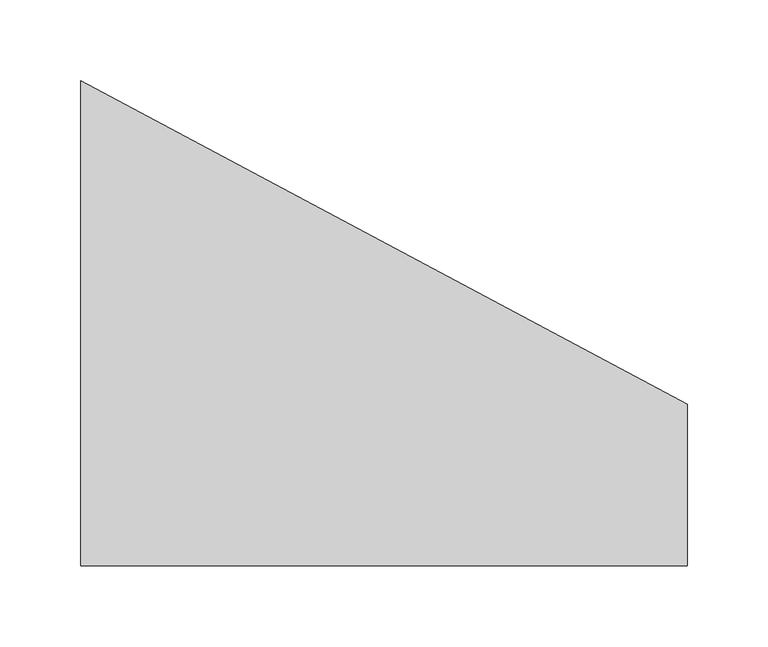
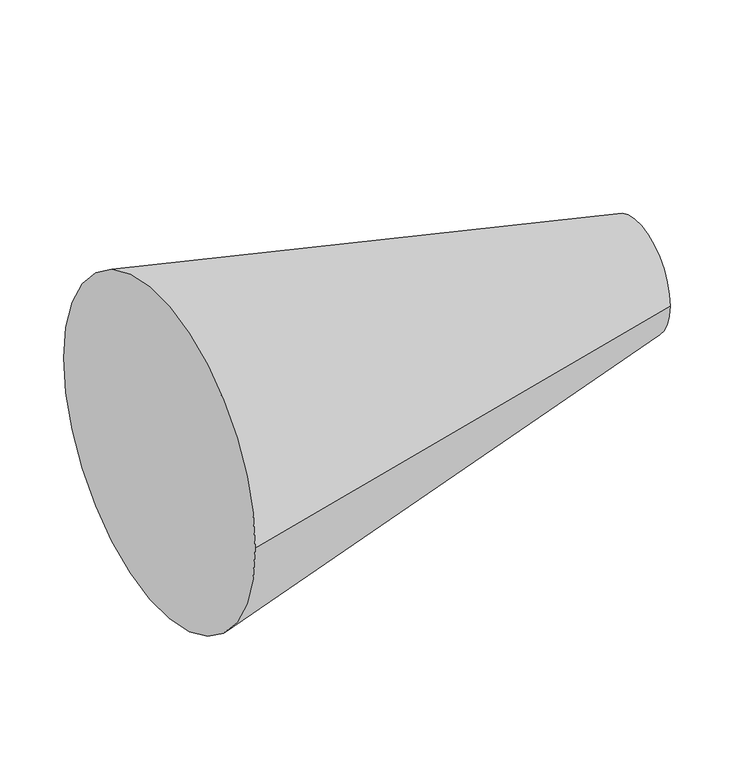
"""IFC4 building model written with IfcOpenShell, lengths in millimetres: duct fitting geometry, BL_ПереходникВоздуховодов_Круглый : Ниппельное соединение."""

import ifcopenshell
import ifcopenshell.guid

model = None  # the IFC model being written
_history = None  # IfcOwnerHistory: only IFC2X3 demands one
_inside = {}  # id of a spatial element -> (the spatial element, [elements in it])
_under = {}  # id of a project, library or spatial element -> (it, [spatial elements below it])
_declared = {}  # id of a project -> (the project, [libraries it declares])
_typed = {}  # id of a type object -> (the type object, [elements of that type])
_made_of = {}  # id of a material, layer set ... -> (it, [elements and type objects made of it])


def new_model(schema):
    """Start an empty IFC model of exactly this schema.

    Asked for "IFC4X3", IfcOpenShell would pick the latest addendum, in which some entities
    have other attributes; the version numbers below select the first issue.
    IFC2X3 requires an IfcOwnerHistory on every rooted entity: one is made here for all.
    """
    global model, _history
    if schema == "IFC4X3":
        model = ifcopenshell.file(schema_version=(4, 3, 0, 0))
    else:
        model = ifcopenshell.file(schema=schema)
    _inside.clear()
    _under.clear()
    _declared.clear()
    _typed.clear()
    _made_of.clear()
    _history = None
    if model.schema == "IFC2X3":
        org = make("IfcOrganization", Name="unknown")
        user = make(
            "IfcPersonAndOrganization",
            ThePerson=make("IfcPerson", FamilyName="unknown"),
            TheOrganization=org,
        )
        app = make(
            "IfcApplication",
            ApplicationDeveloper=org,
            Version="unknown",
            ApplicationFullName="unknown",
            ApplicationIdentifier="unknown",
        )
        _history = make(
            "IfcOwnerHistory",
            OwningUser=user,
            OwningApplication=app,
            ChangeAction="ADDED",
            CreationDate=0,
        )
    return model


def make(cls, **values):
    """One entity of the class cls with the attributes given. An attribute that is None is left unset."""
    return model.create_entity(
        cls, **{name: value for name, value in values.items() if value is not None}
    )


def rooted(cls, **values):
    """An entity with a GlobalId (a new one), such as an element, a storey or a relation."""
    return make(cls, GlobalId=ifcopenshell.guid.new(), OwnerHistory=_history, **values)


def si_unit(unit_type, name, prefix=None):
    """IfcSIUnit, for example si_unit("LENGTHUNIT", "METRE", prefix="MILLI")."""
    return make("IfcSIUnit", UnitType=unit_type, Prefix=prefix, Name=name)


def assignment(units):
    """IfcUnitAssignment: the units of a project."""
    return None if units is None else make("IfcUnitAssignment", Units=units)


def point(xyz):
    """IfcCartesianPoint."""
    return None if xyz is None else make("IfcCartesianPoint", Coordinates=xyz)


def direction(xyz):
    """IfcDirection."""
    return None if xyz is None else make("IfcDirection", DirectionRatios=xyz)


def frame(location, z_axis=None, x_axis=None):
    """IfcAxis2Placement3D, a coordinate frame: its origin and axes. An axis left out is left unset."""
    return make(
        "IfcAxis2Placement3D",
        Location=point(location),
        Axis=direction(z_axis),
        RefDirection=direction(x_axis),
    )


def origin():
    """The frame at (0, 0, 0) with its axes left unset."""
    return frame((0.0, 0.0, 0.0))


def place(relative_to, where):
    """IfcLocalPlacement: puts the frame where relative to a parent placement (None: the world)."""
    return make(
        "IfcLocalPlacement", PlacementRelTo=relative_to, RelativePlacement=where
    )


def context(
    kind, dimensions, precision=None, world=None, true_north=None, identifier=None
):
    """IfcGeometricRepresentationContext, for example the 3D "Model" context."""
    return make(
        "IfcGeometricRepresentationContext",
        ContextIdentifier=identifier,
        ContextType=kind,
        CoordinateSpaceDimension=dimensions,
        Precision=precision,
        WorldCoordinateSystem=world,
        TrueNorth=true_north,
    )


def project(units=None, contexts=None):
    """IfcProject with its units and contexts."""
    return rooted(
        "IfcProject",
        Name="project",
        RepresentationContexts=contexts,
        UnitsInContext=assignment(units),
    )


def spatial(cls, under=None, at=None, **own):
    """A site, building, storey or space (cls), placed at a placement, below another one or the project."""
    s = rooted(cls, ObjectPlacement=at, **own)
    if under is not None:
        _under.setdefault(under.id(), (under, []))[1].append(s)
    return s


def circle_curve(where, radius):
    """IfcCircle in the frame where."""
    return make("IfcCircle", Position=where, Radius=radius)


def shape(context_of_items, identifier, shape_type, items):
    """IfcShapeRepresentation: the items that make up one representation, for example the "Body"."""
    return make(
        "IfcShapeRepresentation",
        ContextOfItems=context_of_items,
        RepresentationIdentifier=identifier,
        RepresentationType=shape_type,
        Items=items,
    )


def source(mapping_origin, context_of_items, identifier, shape_type, items):
    """IfcRepresentationMap: a shape defined once, which mapped items show again and again."""
    return make(
        "IfcRepresentationMap",
        MappingOrigin=mapping_origin,
        MappedRepresentation=shape(context_of_items, identifier, shape_type, items),
    )


def transform(
    local_origin,
    x_axis=None,
    y_axis=None,
    z_axis=None,
    scale=None,
    scale2=None,
    scale3=None,
    uniform=True,
):
    """IfcCartesianTransformationOperator3D, or its non-uniform kind. x_axis, y_axis, z_axis: its Axis1, 2, 3."""
    if uniform:
        return make(
            "IfcCartesianTransformationOperator3D",
            Axis1=direction(x_axis),
            Axis2=direction(y_axis),
            LocalOrigin=point(local_origin),
            Scale=scale,
            Axis3=direction(z_axis),
        )
    return make(
        "IfcCartesianTransformationOperator3DnonUniform",
        Axis1=direction(x_axis),
        Axis2=direction(y_axis),
        LocalOrigin=point(local_origin),
        Scale=scale,
        Axis3=direction(z_axis),
        Scale2=scale2,
        Scale3=scale3,
    )


def mapped(mapping_source, mapping_target):
    """IfcMappedItem: shows the shape of a source again, moved by a transform."""
    return make(
        "IfcMappedItem", MappingSource=mapping_source, MappingTarget=mapping_target
    )


def made_of(thing, what):
    """Note that an element or type object is made of a material, layer set ...; save() writes the relation."""
    if what is not None:
        _made_of.setdefault(what.id(), (what, []))[1].append(thing)
    return thing


def element(
    cls,
    number,
    at=None,
    inside=None,
    cuts=None,
    type_object=None,
    material=None,
    context=None,
    identifier="Body",
    shape_type=None,
    held_by="IfcProductDefinitionShape",
    body=None,
    shapes=None,
    **own,
):
    """One element of the class cls, such as IfcWall. Its Tag is "e" and its number.

    at: its placement. inside: the storey or other place that contains it. cuts: it is an
    opening in that element (IfcRelVoidsElement). A single representation is given by context,
    identifier, shape_type and body (its items); several are given by shapes. held_by: the class
    of the entity that holds the representations. save() writes the other relations.
    """
    e = rooted(cls, Tag="e%d" % number, ObjectPlacement=at, **own)
    if body is not None:
        shapes = [shape(context, identifier, shape_type, body)]
    if shapes is not None:
        e.Representation = make(held_by, Representations=shapes)
    if inside is not None:
        _inside.setdefault(inside.id(), (inside, []))[1].append(e)
    if cuts is not None:
        rooted(
            "IfcRelVoidsElement", RelatingBuildingElement=cuts, RelatedOpeningElement=e
        )
    if type_object is not None:
        _typed.setdefault(type_object.id(), (type_object, []))[1].append(e)
    return made_of(e, material)


def aggregate(whole, parts):
    """IfcRelAggregates: a whole, such as a stair, and the parts it consists of."""
    return rooted("IfcRelAggregates", RelatingObject=whole, RelatedObjects=parts)


def save(model, path):
    """Write the relations noted so far, then the file.

    IfcRelAggregates (storeys below a building ...), IfcRelContainedInSpatialStructure (elements
    in a storey), IfcRelDefinesByType, IfcRelAssociatesMaterial and IfcRelDeclares: one each for
    every whole, place, type object, material and project.
    """
    for whole, parts in _under.values():
        aggregate(whole, parts)
    for where, things in _inside.values():
        rooted(
            "IfcRelContainedInSpatialStructure",
            RelatedElements=things,
            RelatingStructure=where,
        )
    for kind, things in _typed.values():
        rooted("IfcRelDefinesByType", RelatedObjects=things, RelatingType=kind)
    for what, things in _made_of.values():
        rooted("IfcRelAssociatesMaterial", RelatedObjects=things, RelatingMaterial=what)
    for by, libraries in _declared.values():
        rooted("IfcRelDeclares", RelatingContext=by, RelatedDefinitions=libraries)
    model.write(path)


def plane_surface(at):
    """IfcPlane: the flat surface through the origin of the frame at, square to its z axis."""
    return make("IfcPlane", Position=at)


def spline_surface(u_degree, v_degree, points, u_multiplicities, v_multiplicities, u_knots, v_knots, weights=None):
    """IfcBSplineSurfaceWithKnots; with weights, IfcRationalBSplineSurfaceWithKnots. points: one row for each step in u."""
    own = dict(
        UDegree=u_degree,
        VDegree=v_degree,
        ControlPointsList=[[point(p) for p in row] for row in points],
        SurfaceForm="UNSPECIFIED",
        UClosed=False,
        VClosed=False,
        SelfIntersect=False,
        UMultiplicities=u_multiplicities,
        VMultiplicities=v_multiplicities,
        UKnots=u_knots,
        VKnots=v_knots,
        KnotSpec="UNSPECIFIED",
    )
    if weights is None:
        return make("IfcBSplineSurfaceWithKnots", **own)
    return make("IfcRationalBSplineSurfaceWithKnots", WeightsData=weights, **own)


def advanced_brep(points, edges, surfaces, faces):
    """IfcAdvancedBrep: a solid bounded by faces that lie on surfaces and meet in shared edges.

    An edge is (start, end): straight between two places in points (the first is 0);
    or (start, end, curve); or (start, end, curve, False) where it runs against its curve.
    A face is (place in surfaces, loops), or (place, loops, False) where it looks against
    its surface's normal. A loop lists edges by number (the first is 1), with a minus sign
    where the edge is run from its end to its start. The first loop is the outer one.
    """
    corners = [point(p) for p in points]
    vertices = [make("IfcVertexPoint", VertexGeometry=c) for c in corners]
    made = []
    for start, end, *more in edges:
        made.append(
            make(
                "IfcEdgeCurve",
                EdgeStart=vertices[start],
                EdgeEnd=vertices[end],
                EdgeGeometry=more[0] if more else make("IfcPolyline", Points=[corners[start], corners[end]]),
                SameSense=more[1] if len(more) > 1 else True,
            )
        )
    hull = []
    for where, loops, *sense in faces:
        bounds = []
        for j, loop in enumerate(loops):
            ring = [make("IfcOrientedEdge", EdgeElement=made[abs(k) - 1], Orientation=k > 0) for k in loop]
            bounds.append(
                make(
                    "IfcFaceOuterBound" if j == 0 else "IfcFaceBound",
                    Bound=make("IfcEdgeLoop", EdgeList=ring),
                    Orientation=True,
                )
            )
        hull.append(make("IfcAdvancedFace", Bounds=bounds, FaceSurface=surfaces[where], SameSense=sense[0] if sense else True))
    return make("IfcAdvancedBrep", Outer=make("IfcClosedShell", CfsFaces=hull))


def duct_fitting_3902be6a(model_context):
    return source(origin(), model_context, "Body", "AdvancedBrep", [
        advanced_brep(
        [(375.0, -150.0, 100.0), (375.0, -50.0, 100.0), (0.0, -150.0, 0.0), (0.0, 150.0, 0.0)],
        [
            (0, 1, circle_curve(frame((375.0, -100.0, 100.0), z_axis=(1.0, 0.0, 0.0), x_axis=(0.0, 1.0, 0.0)), 50.0)),
            (1, 0, circle_curve(frame((375.0, -100.0, 100.0), z_axis=(1.0, 0.0, 0.0), x_axis=(0.0, 1.0, 0.0)), 50.0)),
            (2, 3, circle_curve(frame((0.0, 0.0, 0.0), z_axis=(-1.0, 0.0, 0.0), x_axis=(0.0, 1.0, 0.0)), 150.0)),
            (3, 2, circle_curve(frame((0.0, 0.0, 0.0), z_axis=(-1.0, 0.0, 0.0), x_axis=(0.0, 1.0, 0.0)), 150.0)),
            (3, 1),
            (0, 2),
        ],
        [
            plane_surface(frame((375.0, -100.0, 100.0), z_axis=(1.0, 0.0, 0.0), x_axis=(0.0, 0.0, -1.0))),
            plane_surface(frame((0.0, 0.0, 0.0), z_axis=(-1.0, 0.0, 0.0), x_axis=(0.0, 0.0, -1.0))),
            spline_surface(2, 1, [[(0.0, -150.0, 0.0), (375.0, -150.0, 100.0)], [(0.0, -150.0, -150.0), (375.0, -150.0, 50.0)], [(0.0, 0.0, -150.0), (375.0, -100.0, 50.0)], [(0.0, 150.0, -150.0), (375.0, -50.0, 50.0)], [(0.0, 150.0, 0.0), (375.0, -50.0, 100.0)]], [3, 2, 3], [2, 2], [0.0, 1.0, 2.0], [0.0, 1.0], weights=[[1.0, 1.0], [0.7071067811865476, 0.7071067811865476], [1.0, 1.0], [0.7071067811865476, 0.7071067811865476], [1.0, 1.0]]),
            spline_surface(2, 1, [[(0.0, 150.0, 0.0), (375.0, -50.0, 100.0)], [(0.0, 150.0, 150.0), (375.0, -50.0, 150.0)], [(0.0, 0.0, 150.0), (375.0, -100.0, 150.0)], [(0.0, -150.0, 150.0), (375.0, -150.0, 150.0)], [(0.0, -150.0, 0.0), (375.0, -150.0, 100.0)]], [3, 2, 3], [2, 2], [0.0, 1.0, 2.0], [0.0, 1.0], weights=[[1.0, 1.0], [0.7071067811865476, 0.7071067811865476], [1.0, 1.0], [0.7071067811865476, 0.7071067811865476], [1.0, 1.0]]),
        ],
        [
            (0, [[1, 2]]),
            (1, [[3, 4]]),
            (2, [[-4, 5, -1, 6]]),
            (3, [[-3, -6, -2, -5]]),
        ],
    ),
    ])


if __name__ == "__main__":
    model = new_model("IFC4")
    model_context = context("Model", 3, world=origin())
    ifc_project = project(units=[si_unit("LENGTHUNIT", "METRE", prefix="MILLI")], contexts=[model_context])
    site = spatial("IfcSite", under=ifc_project)
    building = spatial("IfcBuilding", under=site)
    placement = place(None, origin())
    duct_fitting_shape = duct_fitting_3902be6a(model_context)
    element("IfcDuctFitting", 1, ObjectType="BL_ПереходникВоздуховодов_Круглый : Ниппельное соединение", at=placement, inside=building, context=model_context, shape_type="MappedRepresentation", body=[
        mapped(duct_fitting_shape, transform((0.0, 0.0, 0.0), x_axis=(1.0, 0.0, 0.0), y_axis=(0.0, 1.0, 0.0), z_axis=(0.0, 0.0, 1.0))),
    ])
    save(model, "model.ifc")
